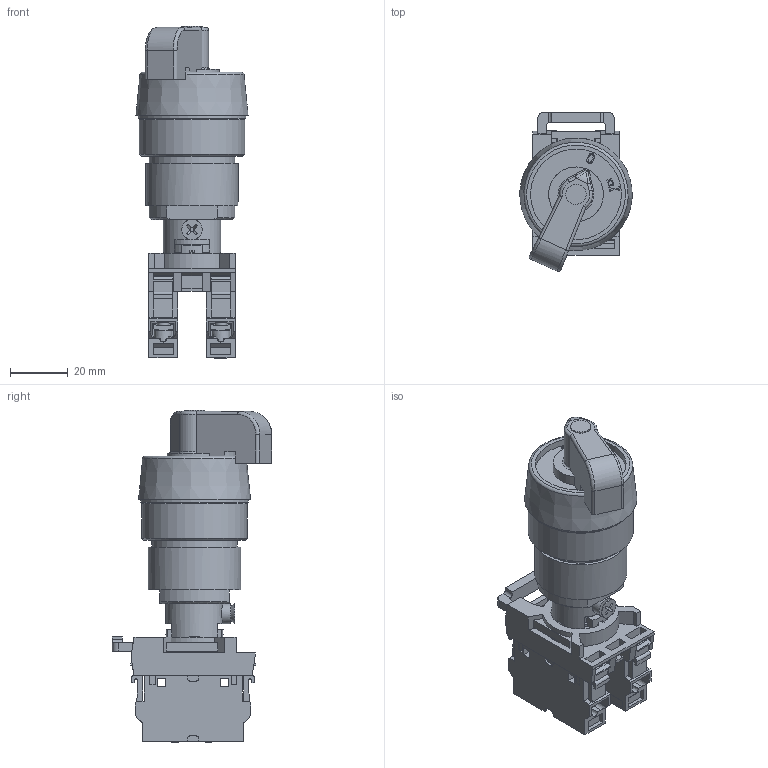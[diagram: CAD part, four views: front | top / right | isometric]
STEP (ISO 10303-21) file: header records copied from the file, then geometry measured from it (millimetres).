
FILE_DESCRIPTION((''),'2;1');
FILE_NAME('\\192.168.5.25\cortem_klient\INVENTOR БАЗА МОДЕЛЕЙ\Актуальная база моделей для отдела продаж\Элементы управления и индикации\ПГВА\ПГВА1З_М1.stp','2019-04-09T12:30:58',('A.S.Kozlov'),(''),'Autodesk Inventor 2012','Autodesk Inventor 2012','');
FILE_SCHEMA(('CONFIG_CONTROL_DESIGN'));
Length unit declared in the file: millimetre
Products named in the file (1): ПГВА1З_М1_Внешний контур_1
Bounding box: 38.9 x 55.25 x 115.1 mm (x, y, z)
Surface area: 44714.4 mm2 (no closed solid volume)
Topology: 0 solids, 16 shells, 986 faces, 2697 edges, 1770 vertices
Faces by surface type: plane 744, cylinder 119, bspline 64, cone 46, torus 11, sphere 2
Full cylindrical faces by diameter (mm): 3.242 x1, 3.85 x1, 4 x6, 4.15 x1, 5.8 x1, 6.2 x4, 6.4 x1, 6.5 x4, 7 x3, 7.4 x1, 7.9 x1, 7.95 x2, 8 x1, 11.3 x1, 12 x1, 14.3 x1, 14.85 x1, 15.45 x1, 15.8 x3, 17.8 x1, 19.8 x1, 24.6 x1, 25 x2, 28.5 x1, 29.75 x1, 31.5 x1, 32 x1, 36.5 x1, 37.5 x1
Entity records: 32872 total; most frequent: CARTESIAN_POINT 7537, ORIENTED_EDGE 5182, DIRECTION 4676, EDGE_CURVE 2591, VECTOR 1922, LINE 1922, VERTEX_POINT 1740, AXIS2_PLACEMENT_3D 1377
